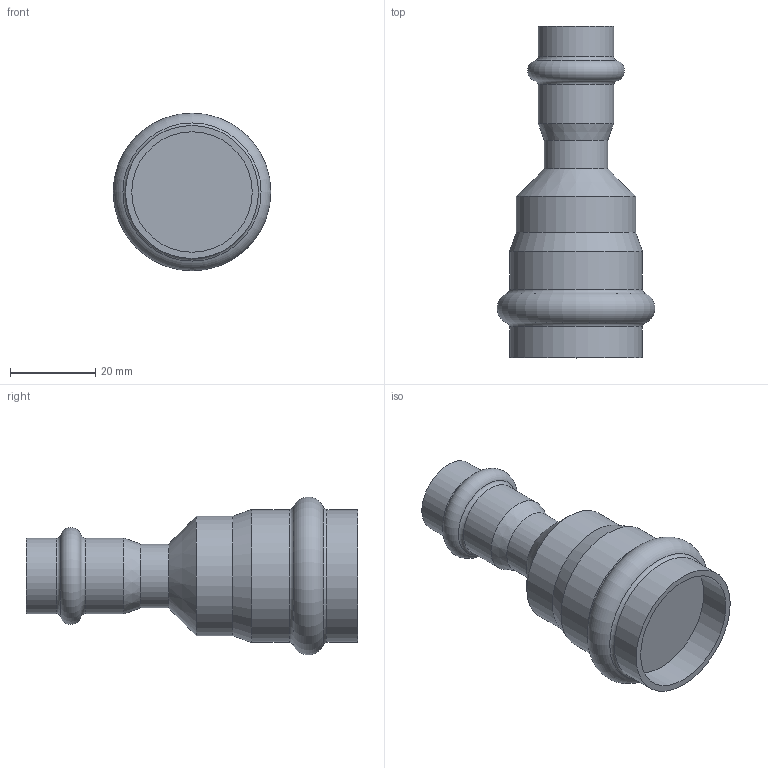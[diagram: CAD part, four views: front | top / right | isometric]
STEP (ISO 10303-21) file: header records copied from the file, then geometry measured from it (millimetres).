
FILE_DESCRIPTION(('STEP AP203'), '1');
FILE_NAME('VTi.903.I.002815', '', ('UNSPECIFIED'), ('UNSPECIFIED'), 'C3D Converter', 'C3D Toolkit', '');
FILE_SCHEMA(('CONFIG_CONTROL_DESIGN'));
Length unit declared in the file: millimetre
Bounding box: 37.09 x 78 x 37.09 mm (x, y, z)
Volume: 34125 mm3; surface area: 8647.6 mm2
Topology: 1 solids, 1 shells, 21 faces, 37 edges, 20 vertices
Faces by surface type: cylinder 8, torus 6, plane 4, cone 3
Full cylindrical faces by diameter (mm): 15 x1, 15.3 x1, 17.8 x2, 28 x1, 28.3 x1, 31.26 x2
Entity records: 454 total; most frequent: DIRECTION 84, CARTESIAN_POINT 62, AXIS2_PLACEMENT_3D 42, EDGE_LOOP 40, ORIENTED_EDGE 40, FACE_OUTER_BOUND 34, ADVANCED_FACE 21, EDGE_CURVE 20
